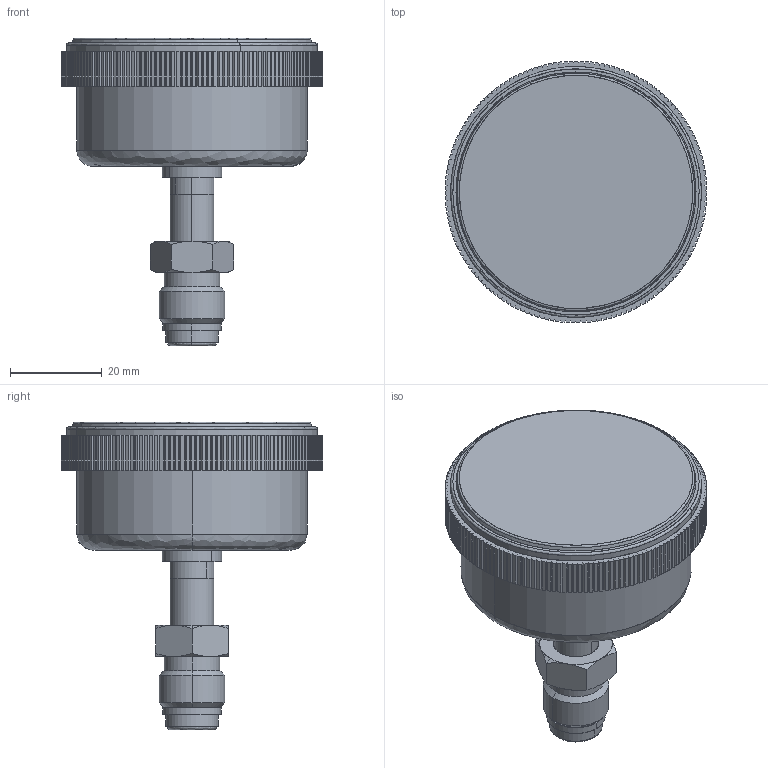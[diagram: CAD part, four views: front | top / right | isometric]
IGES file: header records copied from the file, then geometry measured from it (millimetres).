
Start section: SolidWorks IGES file using analytic representation for surfaces
Global section: file name: C:\Users\hmei\OneDrive - Illinois Tool Works, Inc\Documents\#Project\Gauge\HAI'S PRESSURE GAUGE\C20-SM.IGS; native system: SolidWorks 2023; preprocessor: SolidWorks 2023; author: HMei; date: 250304.142315; units: millimetre
Bounding box: 57.2 x 57.2 x 67.2 mm (x, y, z)
Surface area: 26465.5 mm2 (no closed solid volume)
Topology: 0 solids, 0 shells, 621 faces, 4991 edges, 4991 vertices
Faces by surface type: bspline 372, revolution 249
